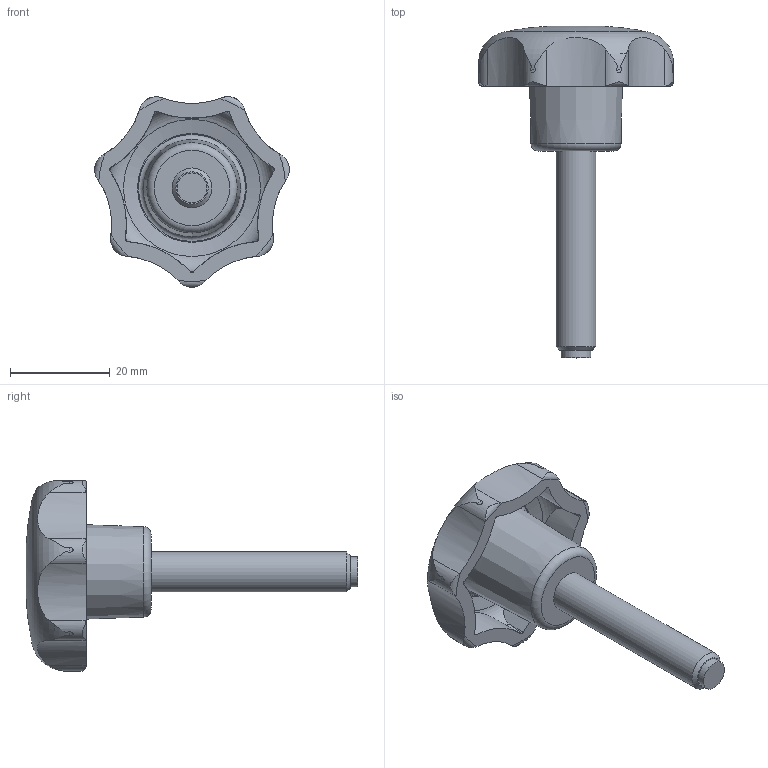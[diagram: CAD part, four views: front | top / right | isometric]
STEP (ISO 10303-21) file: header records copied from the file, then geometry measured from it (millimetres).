
FILE_DESCRIPTION( ( 'STEP AP203' ), '1' );
FILE_NAME( 'C:/Temp/Ganter_Step_05_03_2020/data/2_2/gn6336_10/Star knob GN 6336.10-40-M8-40-MS.stp', '2020-03-05T12:04:13', ( 'License CC BY-ND 4.0' ), ( 'CADENAS' ), ' ', 'PARTsolutions', ' ' );
FILE_SCHEMA( ( 'CONFIG_CONTROL_DESIGN' ) );
Length unit declared in the file: millimetre
Products named in the file (1): _Star knob GN 6336.10-40-M8-40-MS
Bounding box: 39.03 x 66.57 x 38.23 mm (x, y, z)
Volume: 13556 mm3; surface area: 6148.5 mm2
Topology: 1 solids, 1 shells, 64 faces, 188 edges, 128 vertices
Faces by surface type: cylinder 30, cone 17, torus 12, plane 4, bspline 1
Full cylindrical faces by diameter (mm): 6 x1, 8 x1
Entity records: 3177 total; most frequent: CARTESIAN_POINT 1616, ORIENTED_EDGE 346, DIRECTION 264, EDGE_CURVE 173, VERTEX_POINT 126, AXIS2_PLACEMENT_3D 118, B_SPLINE_CURVE_WITH_KNOTS 91, EDGE_LOOP 77
